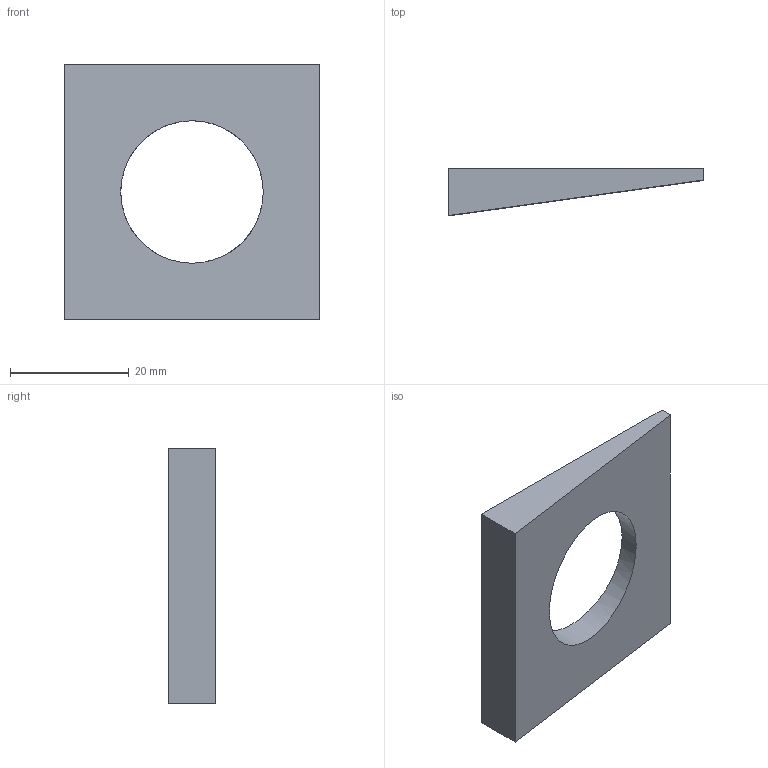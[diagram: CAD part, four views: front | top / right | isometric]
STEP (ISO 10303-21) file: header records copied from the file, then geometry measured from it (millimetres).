
FILE_DESCRIPTION(/* description */ (''),/* implementation_level */ '2;1');
FILE_NAME(/* name */ 'C:\Users\D\Documents\Inventor\HP\JIS\締結部品\座金\テーパ座金8°\tw8-m22.stp',/* time_stamp */ '2024-09-27T15:46:11+09:00',/* author */ ('D'),/* organization */ (''),/* preprocessor_version */ 'ST-DEVELOPER v18',/* originating_system */ 'Autodesk Inventor 2020',/* authorisation */ '');
FILE_SCHEMA (('AUTOMOTIVE_DESIGN { 1 0 10303 214 3 1 1 }'));
Length unit declared in the file: millimetre
Products named in the file (1): tw5-m5
Bounding box: 43 x 8 x 43 mm (x, y, z)
Volume: 6993.9 mm3; surface area: 4045.6 mm2
Topology: 1 solids, 1 shells, 7 faces, 16 edges, 11 vertices
Faces by surface type: plane 6, cylinder 1
Full cylindrical faces by diameter (mm): 24 x1
Entity records: 246 total; most frequent: DIRECTION 35, CARTESIAN_POINT 35, ORIENTED_EDGE 32, EDGE_CURVE 16, LINE 13, VECTOR 13, VERTEX_POINT 11, AXIS2_PLACEMENT_3D 11
